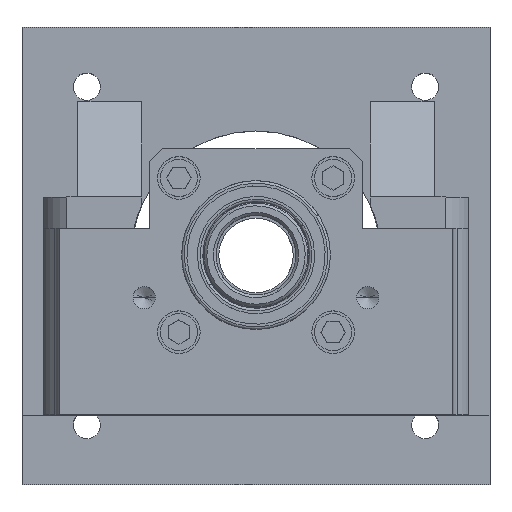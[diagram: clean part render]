
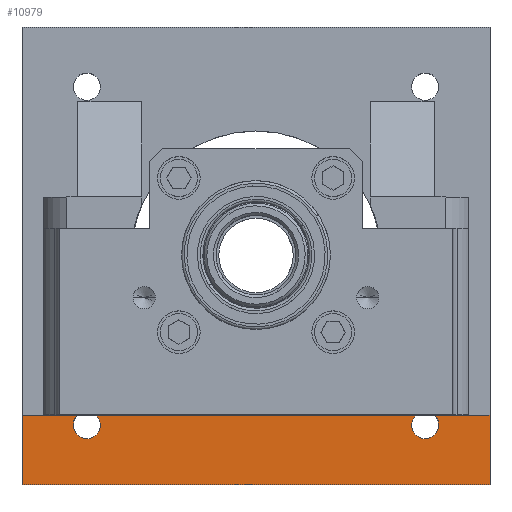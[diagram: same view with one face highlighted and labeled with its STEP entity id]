
A CAD part, top view. The second image highlights one B-rep face of the part: STEP entity #10979.
In plain terms, the highlighted planar face has unit normal (0, 0, 1).
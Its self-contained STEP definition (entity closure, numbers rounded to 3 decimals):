
#125 = VECTOR ( 'NONE', #12193, 1000. ) ;
#353 = LINE ( 'NONE', #10036, #9582 ) ;
#504 = EDGE_CURVE ( 'NONE', #1873, #1612, #7423, .T. ) ;
#544 = DIRECTION ( 'NONE',  ( -1., 0., 0. ) ) ;
#581 = ORIENTED_EDGE ( 'NONE', *, *, #9539, .T. ) ;
#599 = EDGE_CURVE ( 'NONE', #9940, #8537, #9409, .T. ) ;
#610 = CARTESIAN_POINT ( 'NONE',  ( 29.27, -31.82, -93. ) ) ;
#670 = CIRCLE ( 'NONE', #3250, 2.55 ) ;
#772 = ORIENTED_EDGE ( 'NONE', *, *, #599, .F. ) ;
#1041 = EDGE_CURVE ( 'NONE', #2224, #2706, #6320, .T. ) ;
#1266 = DIRECTION ( 'NONE',  ( -1., 0., 0. ) ) ;
#1321 = DIRECTION ( 'NONE',  ( 0., 0., 1. ) ) ;
#1337 = DIRECTION ( 'NONE',  ( -1., 0., 0. ) ) ;
#1366 = CARTESIAN_POINT ( 'NONE',  ( 31.82, -31.82, -93. ) ) ;
#1523 = CARTESIAN_POINT ( 'NONE',  ( 44., -30., -93. ) ) ;
#1612 = VERTEX_POINT ( 'NONE', #610 ) ;
#1640 = DIRECTION ( 'NONE',  ( -1., 0., 0. ) ) ;
#1701 = DIRECTION ( 'NONE',  ( 0., 0., 1. ) ) ;
#1853 = CARTESIAN_POINT ( 'NONE',  ( 31.82, -31.82, -93. ) ) ;
#1873 = VERTEX_POINT ( 'NONE', #13062 ) ;
#2224 = VERTEX_POINT ( 'NONE', #8785 ) ;
#2311 = EDGE_CURVE ( 'NONE', #3717, #6135, #8272, .T. ) ;
#2315 = DIRECTION ( 'NONE',  ( 0., 0., -1. ) ) ;
#2493 = EDGE_CURVE ( 'NONE', #8537, #12681, #670, .T. ) ;
#2627 = EDGE_CURVE ( 'NONE', #1612, #4739, #8814, .T. ) ;
#2664 = VECTOR ( 'NONE', #1337, 1000. ) ;
#2706 = VERTEX_POINT ( 'NONE', #14378 ) ;
#2726 = CARTESIAN_POINT ( 'NONE',  ( -31.82, -31.82, -93. ) ) ;
#2793 = DIRECTION ( 'NONE',  ( 0., 0., 1. ) ) ;
#2821 = DIRECTION ( 'NONE',  ( -1., 0., 0. ) ) ;
#2910 = VECTOR ( 'NONE', #10365, 1000. ) ;
#3250 = AXIS2_PLACEMENT_3D ( 'NONE', #3537, #3521, #3469 ) ;
#3469 = DIRECTION ( 'NONE',  ( -1., 0., 0. ) ) ;
#3515 = CARTESIAN_POINT ( 'NONE',  ( -44., -30., -93. ) ) ;
#3521 = DIRECTION ( 'NONE',  ( 0., 0., 1. ) ) ;
#3524 = ORIENTED_EDGE ( 'NONE', *, *, #2493, .F. ) ;
#3537 = CARTESIAN_POINT ( 'NONE',  ( -31.82, -31.82, -93. ) ) ;
#3717 = VERTEX_POINT ( 'NONE', #10535 ) ;
#3749 = LINE ( 'NONE', #14315, #8937 ) ;
#4058 = EDGE_CURVE ( 'NONE', #1873, #12681, #8052, .T. ) ;
#4292 = CARTESIAN_POINT ( 'NONE',  ( 34.37, -31.82, -93. ) ) ;
#4415 = ORIENTED_EDGE ( 'NONE', *, *, #12548, .F. ) ;
#4485 = CARTESIAN_POINT ( 'NONE',  ( -31.82, -31.82, -93. ) ) ;
#4498 = AXIS2_PLACEMENT_3D ( 'NONE', #4485, #12473, #5643 ) ;
#4602 = CARTESIAN_POINT ( 'NONE',  ( 44., -43., -93. ) ) ;
#4604 = ORIENTED_EDGE ( 'NONE', *, *, #13033, .F. ) ;
#4659 = CARTESIAN_POINT ( 'NONE',  ( 31.82, -31.82, -93. ) ) ;
#4686 = CIRCLE ( 'NONE', #9300, 2.55 ) ;
#4739 = VERTEX_POINT ( 'NONE', #4292 ) ;
#4778 = ORIENTED_EDGE ( 'NONE', *, *, #2627, .F. ) ;
#5224 = VECTOR ( 'NONE', #6221, 1000. ) ;
#5643 = DIRECTION ( 'NONE',  ( -1., 0., 0. ) ) ;
#5810 = DIRECTION ( 'NONE',  ( -1., 0., 0. ) ) ;
#5985 = EDGE_CURVE ( 'NONE', #6135, #9108, #6296, .T. ) ;
#6135 = VERTEX_POINT ( 'NONE', #3515 ) ;
#6221 = DIRECTION ( 'NONE',  ( -1., 0., 0. ) ) ;
#6296 = LINE ( 'NONE', #6505, #125 ) ;
#6320 = LINE ( 'NONE', #10189, #2910 ) ;
#6370 = ORIENTED_EDGE ( 'NONE', *, *, #1041, .F. ) ;
#6505 = CARTESIAN_POINT ( 'NONE',  ( -44., -43., -93. ) ) ;
#6937 = CARTESIAN_POINT ( 'NONE',  ( 44., -30., -93. ) ) ;
#7171 = CARTESIAN_POINT ( 'NONE',  ( -34.37, -31.82, -93. ) ) ;
#7423 = CIRCLE ( 'NONE', #9394, 2.55 ) ;
#8052 = LINE ( 'NONE', #1523, #2664 ) ;
#8272 = LINE ( 'NONE', #6937, #5224 ) ;
#8363 = ORIENTED_EDGE ( 'NONE', *, *, #13732, .F. ) ;
#8537 = VERTEX_POINT ( 'NONE', #8729 ) ;
#8547 = ORIENTED_EDGE ( 'NONE', *, *, #504, .F. ) ;
#8646 = AXIS2_PLACEMENT_3D ( 'NONE', #1853, #1701, #1640 ) ;
#8729 = CARTESIAN_POINT ( 'NONE',  ( -29.27, -31.82, -93. ) ) ;
#8785 = CARTESIAN_POINT ( 'NONE',  ( 44., -30., -93. ) ) ;
#8814 = CIRCLE ( 'NONE', #8646, 2.55 ) ;
#8937 = VECTOR ( 'NONE', #544, 1000. ) ;
#9108 = VERTEX_POINT ( 'NONE', #14191 ) ;
#9300 = AXIS2_PLACEMENT_3D ( 'NONE', #4659, #12646, #5810 ) ;
#9394 = AXIS2_PLACEMENT_3D ( 'NONE', #1366, #1321, #1266 ) ;
#9409 = CIRCLE ( 'NONE', #14740, 2.55 ) ;
#9539 = EDGE_CURVE ( 'NONE', #2224, #10307, #353, .T. ) ;
#9582 = VECTOR ( 'NONE', #14578, 1000. ) ;
#9776 = AXIS2_PLACEMENT_3D ( 'NONE', #4602, #2315, #10355 ) ;
#9940 = VERTEX_POINT ( 'NONE', #7171 ) ;
#10036 = CARTESIAN_POINT ( 'NONE',  ( 44., -30., -93. ) ) ;
#10189 = CARTESIAN_POINT ( 'NONE',  ( 44., -43., -93. ) ) ;
#10275 = FACE_OUTER_BOUND ( 'NONE', #13103, .T. ) ;
#10307 = VERTEX_POINT ( 'NONE', #12254 ) ;
#10325 = ORIENTED_EDGE ( 'NONE', *, *, #2311, .T. ) ;
#10355 = DIRECTION ( 'NONE',  ( -1., 0., 0. ) ) ;
#10365 = DIRECTION ( 'NONE',  ( 0., -1., 0. ) ) ;
#10535 = CARTESIAN_POINT ( 'NONE',  ( -33.606, -30., -93. ) ) ;
#10602 = CARTESIAN_POINT ( 'NONE',  ( -30.034, -30., -93. ) ) ;
#10979 = ADVANCED_FACE ( 'NONE', ( #10275 ), #13751, .F. ) ;
#12193 = DIRECTION ( 'NONE',  ( 0., -1., 0. ) ) ;
#12254 = CARTESIAN_POINT ( 'NONE',  ( 33.606, -30., -93. ) ) ;
#12473 = DIRECTION ( 'NONE',  ( 0., 0., 1. ) ) ;
#12548 = EDGE_CURVE ( 'NONE', #4739, #10307, #4686, .T. ) ;
#12646 = DIRECTION ( 'NONE',  ( 0., 0., 1. ) ) ;
#12681 = VERTEX_POINT ( 'NONE', #10602 ) ;
#12893 = CIRCLE ( 'NONE', #4498, 2.55 ) ;
#13033 = EDGE_CURVE ( 'NONE', #3717, #9940, #12893, .T. ) ;
#13062 = CARTESIAN_POINT ( 'NONE',  ( 30.034, -30., -93. ) ) ;
#13103 = EDGE_LOOP ( 'NONE', ( #10325, #14078, #8363, #6370, #581, #4415, #4778, #8547, #14609, #3524, #772, #4604 ) ) ;
#13732 = EDGE_CURVE ( 'NONE', #2706, #9108, #3749, .T. ) ;
#13751 = PLANE ( 'NONE',  #9776 ) ;
#14078 = ORIENTED_EDGE ( 'NONE', *, *, #5985, .T. ) ;
#14191 = CARTESIAN_POINT ( 'NONE',  ( -44., -43., -93. ) ) ;
#14315 = CARTESIAN_POINT ( 'NONE',  ( 44., -43., -93. ) ) ;
#14378 = CARTESIAN_POINT ( 'NONE',  ( 44., -43., -93. ) ) ;
#14578 = DIRECTION ( 'NONE',  ( -1., 0., 0. ) ) ;
#14609 = ORIENTED_EDGE ( 'NONE', *, *, #4058, .T. ) ;
#14740 = AXIS2_PLACEMENT_3D ( 'NONE', #2726, #2793, #2821 ) ;
